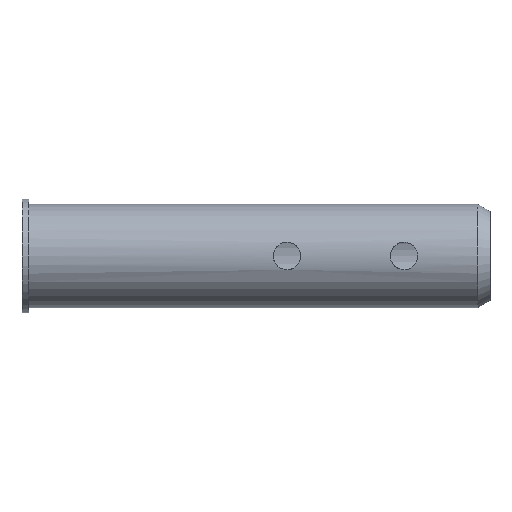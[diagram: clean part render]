
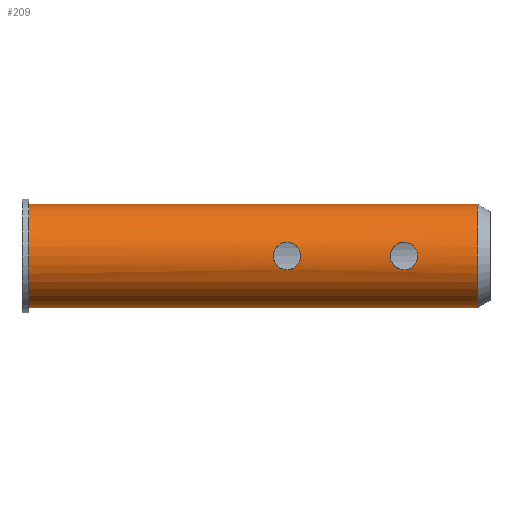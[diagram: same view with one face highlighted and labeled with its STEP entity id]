
A CAD part, left-side view. The second image highlights one B-rep face of the part: STEP entity #209.
In plain terms, the highlighted cylindrical face has radius 1.5 mm (diameter 3 mm), a partial arc.
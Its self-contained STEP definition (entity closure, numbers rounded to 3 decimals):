
#4 = EDGE_CURVE ( 'NONE', #51, #668, #375, .T. ) ;
#7 = VERTEX_POINT ( 'NONE', #182 ) ;
#9 = EDGE_CURVE ( 'NONE', #478, #622, #261, .T. ) ;
#22 = CARTESIAN_POINT ( 'NONE',  ( -1.5, -2.2, 0.106 ) ) ;
#23 = CARTESIAN_POINT ( 'NONE',  ( -1.459, 0.591, -0.356 ) ) ;
#28 = CARTESIAN_POINT ( 'NONE',  ( -1.446, 0.694, -0.4 ) ) ;
#35 = DIRECTION ( 'NONE',  ( 0., -1., 0. ) ) ;
#40 = CIRCLE ( 'NONE', #176, 1.5 ) ;
#45 = B_SPLINE_CURVE_WITH_KNOTS ( 'NONE', 3,
 ( #661, #550, #666, #251, #620, #59, #200, #403, #190, #607 ),
 .UNSPECIFIED., .F., .F.,
 ( 4, 2, 2, 2, 4 ),
 ( 0., 0., 0.001, 0.001, 0.001 ),
 .UNSPECIFIED. ) ;
#51 = VERTEX_POINT ( 'NONE', #89 ) ;
#52 = CARTESIAN_POINT ( 'NONE',  ( 0., 8.3, -1.5 ) ) ;
#59 = CARTESIAN_POINT ( 'NONE',  ( -1.5, -3., 0.105 ) ) ;
#85 = EDGE_CURVE ( 'NONE', #116, #508, #589, .T. ) ;
#86 = CARTESIAN_POINT ( 'NONE',  ( -1.446, 0.695, 0.4 ) ) ;
#88 = CARTESIAN_POINT ( 'NONE',  ( -1.459, -2.39, -0.356 ) ) ;
#89 = CARTESIAN_POINT ( 'NONE',  ( -1.446, 0.8, -0.4 ) ) ;
#92 = DIRECTION ( 'NONE',  ( 0., -1., 0. ) ) ;
#93 = EDGE_LOOP ( 'NONE', ( #286, #159 ) ) ;
#97 = CARTESIAN_POINT ( 'NONE',  ( 0., 8.3, 1.5 ) ) ;
#102 = EDGE_CURVE ( 'NONE', #668, #51, #612, .T. ) ;
#110 = DIRECTION ( 'NONE',  ( 0., -1., 0. ) ) ;
#116 = VERTEX_POINT ( 'NONE', #97 ) ;
#120 = CARTESIAN_POINT ( 'NONE',  ( -1.446, -2.6, 0.4 ) ) ;
#121 = CARTESIAN_POINT ( 'NONE',  ( -1.487, -2.244, -0.209 ) ) ;
#128 = CARTESIAN_POINT ( 'NONE',  ( -1.487, -2.243, 0.209 ) ) ;
#137 = CARTESIAN_POINT ( 'NONE',  ( -1.5, 1.2, 0.106 ) ) ;
#142 = CARTESIAN_POINT ( 'NONE',  ( -1.5, 1.2, -0.105 ) ) ;
#159 = ORIENTED_EDGE ( 'NONE', *, *, #102, .F. ) ;
#170 = CARTESIAN_POINT ( 'NONE',  ( -1.5, 0.4, -0.105 ) ) ;
#173 = EDGE_CURVE ( 'NONE', #116, #332, #658, .T. ) ;
#176 = AXIS2_PLACEMENT_3D ( 'NONE', #528, #520, #465 ) ;
#178 = CARTESIAN_POINT ( 'NONE',  ( -1.459, -2.391, 0.357 ) ) ;
#182 = CARTESIAN_POINT ( 'NONE',  ( 0., -4.75, -1.5 ) ) ;
#190 = CARTESIAN_POINT ( 'NONE',  ( -1.446, -2.705, 0.4 ) ) ;
#194 = CARTESIAN_POINT ( 'NONE',  ( -1.446, 0.906, -0.4 ) ) ;
#200 = CARTESIAN_POINT ( 'NONE',  ( -1.487, -2.957, 0.209 ) ) ;
#201 = VECTOR ( 'NONE', #35, 1000. ) ;
#206 = ORIENTED_EDGE ( 'NONE', *, *, #418, .F. ) ;
#209 = ADVANCED_FACE ( 'NONE', ( #387, #604, #302 ), #342, .T. ) ;
#227 = CARTESIAN_POINT ( 'NONE',  ( -1.446, 0.8, 0.4 ) ) ;
#234 = CARTESIAN_POINT ( 'NONE',  ( -1.446, -2.495, 0.4 ) ) ;
#238 = CARTESIAN_POINT ( 'NONE',  ( -1.5, 0.4, 0.105 ) ) ;
#251 = CARTESIAN_POINT ( 'NONE',  ( -1.487, -2.956, -0.209 ) ) ;
#254 = DIRECTION ( 'NONE',  ( 0., 0., -1. ) ) ;
#261 = B_SPLINE_CURVE_WITH_KNOTS ( 'NONE', 3,
 ( #120, #234, #178, #128, #22, #541, #121, #88, #583, #289 ),
 .UNSPECIFIED., .F., .F.,
 ( 4, 2, 2, 2, 4 ),
 ( 0.001, 0.002, 0.002, 0.002, 0.003 ),
 .UNSPECIFIED. ) ;
#278 = AXIS2_PLACEMENT_3D ( 'NONE', #547, #92, #453 ) ;
#286 = ORIENTED_EDGE ( 'NONE', *, *, #4, .F. ) ;
#289 = CARTESIAN_POINT ( 'NONE',  ( -1.446, -2.6, -0.4 ) ) ;
#293 = ORIENTED_EDGE ( 'NONE', *, *, #173, .F. ) ;
#299 = CARTESIAN_POINT ( 'NONE',  ( -1.459, 1.01, -0.356 ) ) ;
#302 = FACE_BOUND ( 'NONE', #93, .T. ) ;
#303 = ORIENTED_EDGE ( 'NONE', *, *, #85, .T. ) ;
#308 = VECTOR ( 'NONE', #110, 1000. ) ;
#309 = ORIENTED_EDGE ( 'NONE', *, *, #9, .F. ) ;
#332 = VERTEX_POINT ( 'NONE', #468 ) ;
#335 = CARTESIAN_POINT ( 'NONE',  ( -1.446, 0.8, 0.4 ) ) ;
#337 = AXIS2_PLACEMENT_3D ( 'NONE', #443, #657, #254 ) ;
#342 = CYLINDRICAL_SURFACE ( 'NONE', #278, 1.5 ) ;
#364 = LINE ( 'NONE', #573, #308 ) ;
#375 = B_SPLINE_CURVE_WITH_KNOTS ( 'NONE', 3,
 ( #536, #28, #23, #586, #170, #238, #484, #428, #86, #335 ),
 .UNSPECIFIED., .F., .F.,
 ( 4, 2, 2, 2, 4 ),
 ( 0., 0., 0.001, 0.001, 0.001 ),
 .UNSPECIFIED. ) ;
#387 = FACE_OUTER_BOUND ( 'NONE', #572, .T. ) ;
#396 = CARTESIAN_POINT ( 'NONE',  ( -1.446, 0.905, 0.4 ) ) ;
#397 = CARTESIAN_POINT ( 'NONE',  ( 0., -1.267, 1.5 ) ) ;
#400 = CARTESIAN_POINT ( 'NONE',  ( -1.446, 0.8, -0.4 ) ) ;
#403 = CARTESIAN_POINT ( 'NONE',  ( -1.459, -2.809, 0.357 ) ) ;
#418 = EDGE_CURVE ( 'NONE', #622, #478, #45, .T. ) ;
#428 = CARTESIAN_POINT ( 'NONE',  ( -1.459, 0.591, 0.357 ) ) ;
#442 = CARTESIAN_POINT ( 'NONE',  ( -1.446, -2.6, 0.4 ) ) ;
#443 = CARTESIAN_POINT ( 'NONE',  ( 0., 8.3, 0. ) ) ;
#447 = CARTESIAN_POINT ( 'NONE',  ( -1.446, 0.8, 0.4 ) ) ;
#453 = DIRECTION ( 'NONE',  ( 0., 0., -1. ) ) ;
#465 = DIRECTION ( 'NONE',  ( 0., 0., -1. ) ) ;
#468 = CARTESIAN_POINT ( 'NONE',  ( 0., -4.75, 1.5 ) ) ;
#478 = VERTEX_POINT ( 'NONE', #442 ) ;
#484 = CARTESIAN_POINT ( 'NONE',  ( -1.487, 0.443, 0.209 ) ) ;
#508 = VERTEX_POINT ( 'NONE', #52 ) ;
#520 = DIRECTION ( 'NONE',  ( 0., 1., 0. ) ) ;
#528 = CARTESIAN_POINT ( 'NONE',  ( 0., -4.75, 0. ) ) ;
#530 = ORIENTED_EDGE ( 'NONE', *, *, #581, .T. ) ;
#536 = CARTESIAN_POINT ( 'NONE',  ( -1.446, 0.8, -0.4 ) ) ;
#541 = CARTESIAN_POINT ( 'NONE',  ( -1.5, -2.2, -0.105 ) ) ;
#547 = CARTESIAN_POINT ( 'NONE',  ( 0., -1.267, 0. ) ) ;
#550 = CARTESIAN_POINT ( 'NONE',  ( -1.446, -2.706, -0.4 ) ) ;
#552 = CARTESIAN_POINT ( 'NONE',  ( -1.487, 1.156, -0.209 ) ) ;
#572 = EDGE_LOOP ( 'NONE', ( #293, #303, #654, #530 ) ) ;
#573 = CARTESIAN_POINT ( 'NONE',  ( 0., -1.267, -1.5 ) ) ;
#581 = EDGE_CURVE ( 'NONE', #7, #332, #40, .T. ) ;
#583 = CARTESIAN_POINT ( 'NONE',  ( -1.446, -2.494, -0.4 ) ) ;
#586 = CARTESIAN_POINT ( 'NONE',  ( -1.487, 0.444, -0.209 ) ) ;
#589 = CIRCLE ( 'NONE', #337, 1.5 ) ;
#597 = EDGE_LOOP ( 'NONE', ( #206, #309 ) ) ;
#604 = FACE_BOUND ( 'NONE', #597, .T. ) ;
#607 = CARTESIAN_POINT ( 'NONE',  ( -1.446, -2.6, 0.4 ) ) ;
#608 = CARTESIAN_POINT ( 'NONE',  ( -1.487, 1.157, 0.209 ) ) ;
#610 = EDGE_CURVE ( 'NONE', #508, #7, #364, .T. ) ;
#612 = B_SPLINE_CURVE_WITH_KNOTS ( 'NONE', 3,
 ( #447, #396, #662, #608, #137, #142, #552, #299, #194, #400 ),
 .UNSPECIFIED., .F., .F.,
 ( 4, 2, 2, 2, 4 ),
 ( 0.001, 0.002, 0.002, 0.002, 0.003 ),
 .UNSPECIFIED. ) ;
#620 = CARTESIAN_POINT ( 'NONE',  ( -1.5, -3., -0.105 ) ) ;
#622 = VERTEX_POINT ( 'NONE', #643 ) ;
#643 = CARTESIAN_POINT ( 'NONE',  ( -1.446, -2.6, -0.4 ) ) ;
#654 = ORIENTED_EDGE ( 'NONE', *, *, #610, .T. ) ;
#657 = DIRECTION ( 'NONE',  ( 0., -1., 0. ) ) ;
#658 = LINE ( 'NONE', #397, #201 ) ;
#661 = CARTESIAN_POINT ( 'NONE',  ( -1.446, -2.6, -0.4 ) ) ;
#662 = CARTESIAN_POINT ( 'NONE',  ( -1.459, 1.009, 0.357 ) ) ;
#666 = CARTESIAN_POINT ( 'NONE',  ( -1.459, -2.809, -0.356 ) ) ;
#668 = VERTEX_POINT ( 'NONE', #227 ) ;
